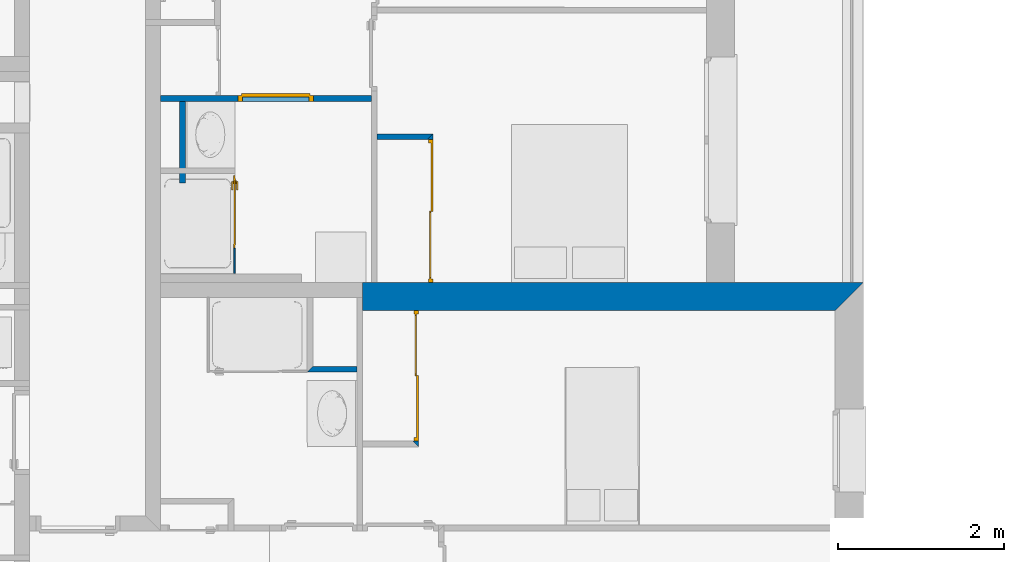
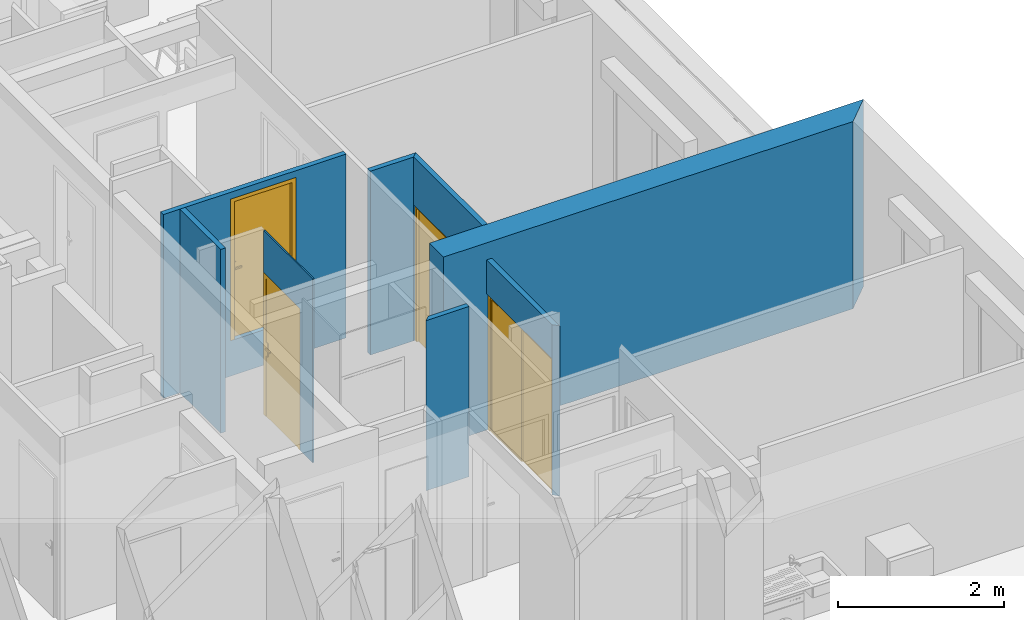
# One storey, part 13 of 164: 8 walls, 4 doors, 4 openings.
"""IFC2X3 building model written with IfcOpenShell, lengths in millimetres."""

from ifc_helpers import new_model, entity, si_unit, converted_unit, derived_unit, money_unit, direction, frame, origin_with_axes, origin_2d_with_axis, place, context, subcontext, project, spatial, polyline, rectangle, outline, extrude, open_shell, faceted_brep, surface_model, source, transform, mapped, material, layer, layer_set, layer_usage, type_object, element, fill, save


model = new_model("IFC2X3")

# Units and contexts
model_context = context("Model", 3, precision=0.01, world=origin_with_axes(), true_north=direction((0.0, 1.0)))
body_context = subcontext(model_context, "Body", "Model", "MODEL_VIEW")
ifc_project = project(units=[si_unit("LENGTHUNIT", "METRE", prefix="MILLI"), si_unit("AREAUNIT", "SQUARE_METRE"), si_unit("VOLUMEUNIT", "CUBIC_METRE"), converted_unit("PLANEANGLEUNIT", "DEGREE", entity("IfcPlaneAngleMeasure", 0.0174532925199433), si_unit("PLANEANGLEUNIT", "RADIAN"), dimensions=[0, 0, 0, 0, 0, 0, 0]), money_unit("USD"), converted_unit("TIMEUNIT", "Year", entity("IfcTimeMeasure", 31557600.0), si_unit("TIMEUNIT", "SECOND"), dimensions=[0, 0, 1, 0, 0, 0, 0]), si_unit("MASSUNIT", "GRAM", prefix="KILO"), si_unit("THERMODYNAMICTEMPERATUREUNIT", "DEGREE_CELSIUS"), si_unit("LUMINOUSINTENSITYUNIT", "LUMEN"), si_unit("ENERGYUNIT", "JOULE", prefix="MEGA"), derived_unit("THERMALCONDUCTANCEUNIT", [(si_unit("POWERUNIT", "WATT"), 1), (si_unit("LENGTHUNIT", "METRE"), -1), (si_unit("THERMODYNAMICTEMPERATUREUNIT", "KELVIN"), -1)]), derived_unit("SPECIFICHEATCAPACITYUNIT", [(si_unit("ENERGYUNIT", "JOULE"), 1), (si_unit("MASSUNIT", "GRAM", prefix="KILO"), -1), (si_unit("THERMODYNAMICTEMPERATUREUNIT", "KELVIN"), -1)]), derived_unit("MASSDENSITYUNIT", [(si_unit("MASSUNIT", "GRAM", prefix="KILO"), 1), (si_unit("VOLUMEUNIT", "CUBIC_METRE"), -1)])], contexts=[model_context])

# Site, building, storey
site_placement = place(None, origin_with_axes())
site = spatial("IfcSite", under=ifc_project, at=site_placement, Name="Site", CompositionType="ELEMENT")
building_placement = place(site_placement, origin_with_axes())
building = spatial("IfcBuilding", under=site, at=building_placement, Name="Bâtiment", CompositionType="ELEMENT")
storey_placement = place(building_placement, frame((0.0, 0.0, 5750.0), z_axis=(0.0, 0.0, 1.0), x_axis=(1.0, 0.0, 0.0)))
storey = spatial("IfcBuildingStorey", under=building, at=storey_placement, Name="Etage1", CompositionType="ELEMENT", Elevation=5750.0)

# Wall, opening, door
ifc_material_1 = material(Name="Hachure solide 268963992")
ifc_layer_1 = layer(ifc_material_1, 70.0, ventilated="UNKNOWN")
ifc_layer_set_1 = layer_set([ifc_layer_1], Name="Cloison 70 0826278243")
ifc_layer_usage_1 = layer_usage(ifc_layer_set_1, "AXIS2", "NEGATIVE", 70.0)
wall_type_1 = type_object("IfcWallType", Name="Cloison 70 0826278243 70", PredefinedType="NOTDEFINED")
wall_1_placement = place(storey_placement, frame((2229170.650386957, -646738.4413044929, 0.0), z_axis=(0.0, 0.0, 1.0), x_axis=(0.0, 1.0, 0.0)))
wall_1 = element("IfcWallStandardCase", 1, at=wall_1_placement, inside=storey, type_object=wall_type_1, material=ifc_layer_usage_1, Name="Mur-149", context=body_context, shape_type="SweptSolid", body=[
    extrude(outline(polyline([(8.877094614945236e-07, 0.0), (1790.16227224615, 0.0), (1720.162272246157, 70.00000000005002), (8.877094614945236e-07, 70.00000000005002), (8.877094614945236e-07, 0.0)])), origin_with_axes(), (0.0, 0.0, 1.0), 2700.0),
])
opening_1_placement = place(wall_1_placement, frame((860.0811365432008, 0.0, 0.0), z_axis=(0.0, 0.0, 1.0), x_axis=(1.0, 0.0, 0.0)))
opening_1 = element("IfcOpeningElement", 2, at=opening_1_placement, cuts=wall_1, Name="Por-323", context=body_context, shape_type="SweptSolid", body=[
    extrude(rectangle(XDim=1720.162271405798, YDim=2000.0, at=origin_2d_with_axis()), frame((0.0, 0.0, 1000.0), z_axis=(0.0, 1.0, 0.0), x_axis=(1.0, 0.0, 0.0)), (0.0, 0.0, -1.0), 70.0),
    extrude(rectangle(XDim=1720.162271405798, YDim=2000.0, at=origin_2d_with_axis()), frame((0.0, 0.0, 1000.0), z_axis=(0.0, -1.0, 0.0), x_axis=(1.0, 0.0, 0.0)), (0.0, 0.0, -1.0), 70.0),
])
door_style_1 = type_object("IfcDoorStyle", ConstructionType="NOTDEFINED", OperationType="NOTDEFINED", ParameterTakesPrecedence=False, Sizeable=False)
shared_shape_1 = source(origin_with_axes(), body_context, "Body", "SurfaceModel", [
    faceted_brep([(-860.0811357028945, 0.0, 0.0), (-860.0811357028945, 0.0, 2000.0), (860.0811357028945, 0.0, 2000.0), (860.0811357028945, 0.0, 0.0), (820.0811357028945, 0.0, 0.0), (820.0811357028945, 0.0, 1960.0), (-820.0811357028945, 0.0, 1960.0), (-820.0811357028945, 0.0, 0.0), (-860.0811357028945, -50.0, 0.0), (-860.0811357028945, -50.0, 2000.0), (860.0811357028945, -50.0, 2000.0), (860.0811357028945, -50.0, 0.0), (820.0811357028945, -50.0, 0.0), (820.0811357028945, -10.0, 0.0), (820.0811357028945, -10.0, 1960.0), (-820.0811357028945, -10.0, 1960.0), (-820.0811357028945, -10.0, 0.0), (-820.0811357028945, -50.0, 0.0), (-820.0811357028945, -50.0, 1960.0), (820.0811357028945, -50.0, 1960.0)], [[[0, 1, 2, 3, 4, 5, 6, 7]], [[8, 9, 1, 0]], [[9, 10, 2, 1]], [[10, 11, 3, 2]], [[3, 11, 12, 13, 4]], [[5, 4, 13, 14]], [[6, 5, 14, 15]], [[7, 6, 15, 16]], [[0, 7, 16, 17, 8]], [[17, 18, 19, 12, 11, 10, 9, 8]], [[14, 13, 12, 19]], [[15, 14, 19, 18]], [[16, 15, 18, 17]]]),
    faceted_brep([(820.0811357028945, -20.0, 0.0), (820.0811357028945, -40.0, 0.0), (0.0, -40.0, 0.0), (0.0, -20.0, 0.0), (820.0811357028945, -20.0, 1960.0), (820.0811357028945, -40.0, 1960.0), (0.0, -40.0, 1960.0), (800.0811357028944, -40.0, 20.0), (20.00000000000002, -40.0, 20.0), (20.00000000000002, -40.0, 1940.0), (800.0811357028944, -40.0, 1940.0), (0.0, -20.0, 1960.0), (800.0811357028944, -20.0, 20.0), (800.0811357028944, -20.0, 1940.0), (20.00000000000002, -20.0, 1940.0), (20.00000000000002, -20.0, 20.0)], [[[0, 1, 2, 3]], [[4, 5, 1, 0]], [[1, 5, 6, 2], [7, 8, 9, 10]], [[3, 2, 6, 11]], [[0, 3, 11, 4], [12, 13, 14, 15]], [[11, 6, 5, 4]], [[15, 8, 7, 12]], [[14, 9, 8, 15]], [[13, 10, 9, 14]], [[12, 7, 10, 13]]]),
    surface_model("IfcShellBasedSurfaceModel", [(800.0811357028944, -30.0, 20.0), (800.0811357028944, -30.0, 1940.0), (20.00000000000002, -30.0, 1940.0), (20.00000000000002, -30.0, 20.0)], [open_shell([[[0, 1, 2, 3]]])]),
    faceted_brep([(5.000000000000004, 0.0, 0.0), (5.000000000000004, -20.0, 0.0), (-820.0811357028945, -20.0, 0.0), (-820.0811357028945, 0.0, 0.0), (5.000000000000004, 0.0, 1960.0), (5.000000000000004, -20.0, 1960.0), (-820.0811357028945, -20.0, 1960.0), (-820.0811357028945, 0.0, 1960.0)], [[[0, 1, 2, 3]], [[4, 5, 1, 0]], [[1, 5, 6, 2]], [[3, 2, 6, 7]], [[0, 3, 7, 4]], [[7, 6, 5, 4]]]),
])
door_1_placement = place(opening_1_placement, frame((860.0811357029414, 0.0, 0.0), z_axis=(0.0, 0.0, 1.0), x_axis=(-1.0, 0.0, 0.0)))
door_1 = element("IfcDoor", 3, at=door_1_placement, inside=storey, type_object=door_style_1, Name="Por-323", OverallHeight=2000.0, OverallWidth=1720.16, context=body_context, shape_type="MappedRepresentation", body=[
    mapped(shared_shape_1, transform((860.0811357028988, 0.0, 0.0))),
])
fill(opening_1, door_1)

# Walls
ifc_layer_usage_2 = layer_usage(ifc_layer_set_1, "AXIS2", "NEGATIVE", 70.0)
wall_2_placement = place(storey_placement, frame((2227655.056988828, -647819.3140481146, 0.0), z_axis=(0.0, 0.0, 1.0), x_axis=(1.0, 0.0, 0.0)))
element("IfcWallStandardCase", 4, at=wall_2_placement, inside=storey, type_object=wall_type_1, material=ifc_layer_usage_2, Name="Mur-149", context=body_context, shape_type="SweptSolid", body=[
    extrude(outline(polyline([(0.0, 0.0), (601.8235545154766, 0.0), (601.8235545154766, 69.99999999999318), (70.00000000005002, 69.99999999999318), (0.0, 0.0)])), origin_with_axes(), (0.0, 0.0, 1.0), 2500.0),
])
ifc_layer_usage_3 = layer_usage(ifc_layer_set_1, "AXIS2", "POSITIVE", -70.0)
wall_3_placement = place(storey_placement, frame((2226190.814608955, -644489.3213492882, 0.0), z_axis=(0.0, 0.0, 1.0), x_axis=(0.0, -1.0, 0.0)))
element("IfcWallStandardCase", 5, at=wall_3_placement, inside=storey, type_object=wall_type_1, material=ifc_layer_usage_3, Name="Mur-149", context=body_context, shape_type="SweptSolid", body=[
    extrude(outline(polyline([(69.99999999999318, -70.00000000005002), (1049.625339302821, -70.00000000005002), (1049.625339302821, 0.0), (69.99999999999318, 0.0), (69.99999999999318, -70.00000000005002)])), origin_with_axes(), (0.0, 0.0, 1.0), 2700.0),
])

# Wall, opening, door
ifc_layer_usage_4 = layer_usage(ifc_layer_set_1, "AXIS2", "POSITIVE", -70.0)
wall_4_placement = place(storey_placement, frame((2225712.318356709, -644489.3213492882, 0.0), z_axis=(0.0, 0.0, 1.0), x_axis=(1.0, 0.0, 0.0)))
wall_4 = element("IfcWallStandardCase", 6, at=wall_4_placement, inside=storey, type_object=wall_type_1, material=ifc_layer_usage_4, Name="Mur-149", context=body_context, shape_type="SweptSolid", body=[
    extrude(outline(polyline([(179.99999999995, -69.99999999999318), (2718.332030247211, -69.99999999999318), (2718.332030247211, 0.0), (179.99999999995, 0.0), (179.99999999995, -69.99999999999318)])), origin_with_axes(), (0.0, 0.0, 1.0), 2700.0),
])
opening_2_placement = place(wall_4_placement, frame((1567.15203090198, 0.0, 520.0000000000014), z_axis=(0.0, 0.0, 1.0), x_axis=(1.0, 0.0, 0.0)))
opening_2 = element("IfcOpeningElement", 7, at=opening_2_placement, cuts=wall_4, Name="Por-278", context=body_context, shape_type="SweptSolid", body=[
    extrude(rectangle(XDim=909.9999999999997, YDim=2079.999999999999, at=origin_2d_with_axis()), frame((0.0, -69.99999999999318, 1039.999999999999), z_axis=(0.0, 1.0, 0.0), x_axis=(1.0, 0.0, 0.0)), (0.0, 0.0, 1.0), 140.0),
])
door_style_2 = type_object("IfcDoorStyle", Name="Porte_1v", ConstructionType="NOTDEFINED", OperationType="NOTDEFINED", ParameterTakesPrecedence=False, Sizeable=False)
shared_shape_2 = source(origin_with_axes(), body_context, "Body", "Brep", [
    faceted_brep([(454.9999999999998, 0.0, 0.0), (414.9999999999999, 0.0, 0.0), (414.9999999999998, 0.0, 2040.0), (-414.9999999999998, 0.0, 2040.0), (-414.9999999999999, 0.0, 0.0), (-454.9999999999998, 0.0, 0.0), (-454.9999999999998, 0.0, 2080.0), (454.9999999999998, 0.0, 2080.0), (454.9999999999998, -69.99999999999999, 0.0), (399.9999999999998, -69.99999999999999, 0.0), (399.9999999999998, -15.0, 0.0), (414.9999999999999, -15.0, 0.0), (414.9999999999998, -15.0, 2040.0), (-414.9999999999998, -15.0, 2040.0), (-414.9999999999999, -15.0, 0.0), (-399.9999999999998, -15.0, 0.0), (-399.9999999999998, -69.99999999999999, 0.0), (-454.9999999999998, -69.99999999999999, 0.0), (-454.9999999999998, -69.99999999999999, 2080.0), (454.9999999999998, -69.99999999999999, 2080.0), (-399.9999999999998, -69.99999999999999, 2025.0), (399.9999999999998, -69.99999999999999, 2025.0), (399.9999999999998, -15.0, 2025.0), (-399.9999999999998, -15.0, 2025.0)], [[[0, 1, 2, 3, 4, 5, 6, 7]], [[0, 8, 9, 10, 11, 1]], [[1, 11, 12, 2]], [[2, 12, 13, 3]], [[3, 13, 14, 4]], [[5, 4, 14, 15, 16, 17]], [[18, 6, 5, 17]], [[19, 7, 6, 18]], [[8, 0, 7, 19]], [[9, 8, 19, 18, 17, 16, 20, 21]], [[10, 9, 21, 22]], [[11, 10, 22, 23, 15, 14, 13, 12]], [[23, 20, 16, 15]], [[22, 21, 20, 23]]]),
    faceted_brep([(-349.9999999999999, -15.0, 900.0), (-389.9999999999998, -15.0, 900.0), (-389.9999999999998, -15.0, 1100.0), (-349.9999999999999, -15.0, 1100.0), (-349.9999999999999, -24.99999999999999, 900.0), (-389.9999999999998, -24.99999999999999, 900.0), (-389.9999999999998, -24.99999999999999, 1100.0), (-349.9999999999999, -24.99999999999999, 1100.0)], [[[0, 1, 2, 3]], [[1, 0, 4, 5]], [[2, 1, 5, 6]], [[3, 2, 6, 7]], [[0, 3, 7, 4]], [[5, 4, 7, 6]]]),
    faceted_brep([(-279.9999999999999, -24.99999999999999, 1000.0), (-379.9999999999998, -24.99999999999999, 1000.0), (-379.9999999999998, -24.99999999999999, 1020.0), (-279.9999999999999, -24.99999999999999, 1020.0), (-279.9999999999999, -44.99999999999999, 1000.0), (-379.9999999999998, -44.99999999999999, 1000.0), (-379.9999999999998, -44.99999999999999, 1020.0), (-279.9999999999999, -44.99999999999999, 1020.0)], [[[0, 1, 2, 3]], [[1, 0, 4, 5]], [[2, 1, 5, 6]], [[3, 2, 6, 7]], [[0, 3, 7, 4]], [[5, 4, 7, 6]]]),
    faceted_brep([(-349.9999999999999, 34.99999999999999, 900.0), (-389.9999999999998, 34.99999999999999, 900.0), (-389.9999999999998, 34.99999999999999, 1100.0), (-349.9999999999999, 34.99999999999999, 1100.0), (-349.9999999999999, 24.99999999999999, 900.0), (-389.9999999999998, 24.99999999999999, 900.0), (-389.9999999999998, 24.99999999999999, 1100.0), (-349.9999999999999, 24.99999999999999, 1100.0)], [[[0, 1, 2, 3]], [[1, 0, 4, 5]], [[2, 1, 5, 6]], [[3, 2, 6, 7]], [[0, 3, 7, 4]], [[5, 4, 7, 6]]]),
    faceted_brep([(-279.9999999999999, 54.99999999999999, 1000.0), (-379.9999999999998, 54.99999999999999, 1000.0), (-379.9999999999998, 54.99999999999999, 1020.0), (-279.9999999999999, 54.99999999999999, 1020.0), (-279.9999999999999, 34.99999999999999, 1000.0), (-379.9999999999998, 34.99999999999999, 1000.0), (-379.9999999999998, 34.99999999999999, 1020.0), (-279.9999999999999, 34.99999999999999, 1020.0)], [[[0, 1, 2, 3]], [[1, 0, 4, 5]], [[2, 1, 5, 6]], [[3, 2, 6, 7]], [[0, 3, 7, 4]], [[5, 4, 7, 6]]]),
    faceted_brep([(-414.9999999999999, 24.99999999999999, 0.0), (414.9999999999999, 24.99999999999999, 0.0), (414.9999999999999, -15.0, 0.0), (-414.9999999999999, -15.0, 0.0), (-414.9999999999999, 24.99999999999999, 2040.0), (414.9999999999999, 24.99999999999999, 2040.0), (414.9999999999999, -15.0, 2040.0), (-414.9999999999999, -15.0, 2040.0)], [[[0, 1, 2, 3]], [[0, 4, 5, 1]], [[1, 5, 6, 2]], [[3, 2, 6, 7]], [[4, 0, 3, 7]], [[5, 4, 7, 6]]]),
])
door_2_placement = place(opening_2_placement, frame((-414.9999999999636, 0.0, 0.0), z_axis=(0.0, 0.0, 1.0), x_axis=(1.0, 0.0, 0.0)))
door_2 = element("IfcDoor", 8, at=door_2_placement, inside=storey, type_object=door_style_2, Name="Por-278", OverallHeight=2040.0, OverallWidth=830.0, context=body_context, shape_type="MappedRepresentation", body=[
    mapped(shared_shape_2, transform((414.9999999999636, 0.0, 0.0))),
])
fill(opening_2, door_2)

ifc_layer_usage_5 = layer_usage(ifc_layer_set_1, "AXIS2", "POSITIVE", -70.0)
wall_5_placement = place(storey_placement, frame((2228996.880543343, -646738.4413036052, 0.0), z_axis=(0.0, 0.0, 1.0), x_axis=(0.0, -1.0, 0.0)))
wall_5 = element("IfcWallStandardCase", 9, at=wall_5_placement, inside=storey, type_object=wall_type_1, material=ifc_layer_usage_5, Name="Mur-149", context=body_context, shape_type="SweptSolid", body=[
    extrude(outline(polyline([(340.0000000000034, -70.00000000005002), (1908.59990796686, -70.00000000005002), (1978.599907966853, 0.0), (340.0000000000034, 0.0), (340.0000000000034, -70.00000000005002)])), origin_with_axes(), (0.0, 0.0, 1.0), 2500.0),
])
opening_3_placement = place(wall_5_placement, frame((1124.299953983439, 1.13686837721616e-10, 0.0), z_axis=(0.0, 0.0, 1.0), x_axis=(1.0, 0.0, 0.0)))
opening_3 = element("IfcOpeningElement", 10, at=opening_3_placement, cuts=wall_5, Name="Por-321", context=body_context, shape_type="SweptSolid", body=[
    extrude(rectangle(XDim=1568.599907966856, YDim=2000.0, at=origin_2d_with_axis()), frame((0.0, 0.0, 1000.0), z_axis=(0.0, -1.0, 0.0), x_axis=(1.0, 0.0, 0.0)), (0.0, 0.0, -1.0), 70.0),
    extrude(rectangle(XDim=1568.599907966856, YDim=2000.0, at=origin_2d_with_axis()), frame((0.0, 0.0, 1000.0), z_axis=(0.0, 1.0, 0.0), x_axis=(1.0, 0.0, 0.0)), (0.0, 0.0, -1.0), 70.0),
])
shared_shape_3 = source(origin_with_axes(), body_context, "Body", "SurfaceModel", [
    faceted_brep([(784.299953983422, 0.0, 0.0), (744.2999539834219, 0.0, 0.0), (744.2999539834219, 0.0, 1960.0), (-744.2999539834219, 0.0, 1960.0), (-744.2999539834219, 0.0, 0.0), (-784.299953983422, 0.0, 0.0), (-784.299953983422, 0.0, 2000.0), (784.299953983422, 0.0, 2000.0), (784.299953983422, -50.0, 0.0), (744.2999539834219, -50.0, 0.0), (744.2999539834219, -10.0, 0.0), (744.2999539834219, -10.0, 1960.0), (-744.2999539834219, -10.0, 1960.0), (-744.2999539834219, -10.0, 0.0), (-744.2999539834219, -50.0, 0.0), (-784.299953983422, -50.0, 0.0), (-784.299953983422, -50.0, 2000.0), (784.299953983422, -50.0, 2000.0), (-744.2999539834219, -50.0, 1960.0), (744.2999539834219, -50.0, 1960.0)], [[[0, 1, 2, 3, 4, 5, 6, 7]], [[0, 8, 9, 10, 1]], [[1, 10, 11, 2]], [[2, 11, 12, 3]], [[3, 12, 13, 4]], [[5, 4, 13, 14, 15]], [[16, 6, 5, 15]], [[17, 7, 6, 16]], [[8, 0, 7, 17]], [[9, 8, 17, 16, 15, 14, 18, 19]], [[10, 9, 19, 11]], [[11, 19, 18, 12]], [[12, 18, 14, 13]]]),
    faceted_brep([(-744.2999539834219, -20.0, 0.0), (0.0, -20.0, 0.0), (0.0, -40.0, 0.0), (-744.2999539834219, -40.0, 0.0), (-744.2999539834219, -20.0, 1960.0), (0.0, -20.0, 1960.0), (-724.2999539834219, -20.0, 20.0), (-20.00000000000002, -20.0, 20.0), (-20.00000000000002, -20.0, 1940.0), (-724.2999539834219, -20.0, 1940.0), (0.0, -40.0, 1960.0), (-744.2999539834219, -40.0, 1960.0), (-724.2999539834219, -40.0, 20.0), (-724.2999539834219, -40.0, 1940.0), (-20.00000000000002, -40.0, 1940.0), (-20.00000000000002, -40.0, 20.0)], [[[0, 1, 2, 3]], [[0, 4, 5, 1], [6, 7, 8, 9]], [[1, 5, 10, 2]], [[3, 2, 10, 11], [12, 13, 14, 15]], [[4, 0, 3, 11]], [[5, 4, 11, 10]], [[7, 6, 12, 15]], [[8, 7, 15, 14]], [[9, 8, 14, 13]], [[6, 9, 13, 12]]]),
    surface_model("IfcShellBasedSurfaceModel", [(-724.2999539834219, -30.0, 20.0), (-20.00000000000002, -30.0, 20.0), (-20.00000000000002, -30.0, 1940.0), (-724.2999539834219, -30.0, 1940.0)], [open_shell([[[0, 1, 2, 3]]])]),
    faceted_brep([(-5.000000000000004, 0.0, 0.0), (744.2999539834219, 0.0, 0.0), (744.2999539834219, -20.0, 0.0), (-5.000000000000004, -20.0, 0.0), (-5.000000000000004, 0.0, 1960.0), (744.2999539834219, 0.0, 1960.0), (744.2999539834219, -20.0, 1960.0), (-5.000000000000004, -20.0, 1960.0)], [[[0, 1, 2, 3]], [[0, 4, 5, 1]], [[1, 5, 6, 2]], [[3, 2, 6, 7]], [[4, 0, 3, 7]], [[5, 4, 7, 6]]]),
])
door_3_placement = place(opening_3_placement, frame((-784.2999539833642, 1.13686837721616e-10, 0.0), z_axis=(0.0, 0.0, 1.0), x_axis=(1.0, 0.0, 0.0)))
door_3 = element("IfcDoor", 11, at=door_3_placement, inside=storey, type_object=door_style_1, Name="Por-321", OverallHeight=2000.0, OverallWidth=1568.6, context=body_context, shape_type="MappedRepresentation", body=[
    mapped(shared_shape_3, transform((784.299953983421, 0.0, 0.0))),
])
fill(opening_3, door_3)

# Walls
ifc_layer_usage_6 = layer_usage(ifc_layer_set_1, "AXIS2", "NEGATIVE", 70.0)
wall_6_placement = place(storey_placement, frame((2229170.650386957, -644948.2790322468, 0.0), z_axis=(0.0, 0.0, 1.0), x_axis=(-1.0, 0.0, 0.0)))
element("IfcWallStandardCase", 12, at=wall_6_placement, inside=storey, type_object=wall_type_1, material=ifc_layer_usage_6, Name="Mur-149", context=body_context, shape_type="SweptSolid", body=[
    extrude(outline(polyline([(0.0, 0.0), (669.9999999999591, 0.0), (669.9999999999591, 69.99999999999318), (70.00000000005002, 69.99999999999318), (0.0, 0.0)])), origin_with_axes(), (0.0, 0.0, 1.0), 2700.0),
])
ifc_material_2 = material(Name="Parpaing 312445824")
ifc_layer_2 = layer(ifc_material_2, 180.0, ventilated="UNKNOWN")
ifc_material_3 = material(Name="Isolant styromousse 301821074")
ifc_layer_3 = layer(ifc_material_3, 160.0, ventilated="UNKNOWN")
ifc_layer_set_2 = layer_set([ifc_layer_2, ifc_layer_3], Name="isol int 18+16 0018356637")
ifc_layer_usage_7 = layer_usage(ifc_layer_set_2, "AXIS2", "NEGATIVE", 0.0)
wall_type_2 = type_object("IfcWallType", Name="isol int 18+16 0018356637 340", PredefinedType="NOTDEFINED")
wall_7_placement = place(storey_placement, frame((2228326.880543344, -646738.4413036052, 0.0), z_axis=(0.0, 0.0, 1.0), x_axis=(1.0, 0.0, 0.0)))
element("IfcWallStandardCase", 13, at=wall_7_placement, inside=storey, type_object=wall_type_2, material=ifc_layer_usage_7, Name="Mur-144", context=body_context, shape_type="SweptSolid", body=[
    extrude(outline(polyline([(0.0, -340.0000000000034), (5689.790753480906, -340.0000000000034), (6029.790753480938, 0.0), (0.0, 0.0), (0.0, -340.0000000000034)])), origin_with_axes(), (0.0, 0.0, 1.0), 2750.0),
])

# Wall, opening, door
ifc_material_4 = material(Name="Empty Fill 292498448")
ifc_layer_4 = layer(ifc_material_4, 20.0, ventilated="UNKNOWN")
ifc_layer_set_3 = layer_set([ifc_layer_4], Name="mur 2cm")
ifc_layer_usage_8 = layer_usage(ifc_layer_set_3, "AXIS2", "POSITIVE", -20.0)
wall_type_3 = type_object("IfcWallType", Name="mur 2cm 20", PredefinedType="NOTDEFINED")
wall_8_placement = place(storey_placement, frame((2226790.814599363, -645448.0567157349, 0.0), z_axis=(0.0, 0.0, 1.0), x_axis=(-5.073241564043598e-07, -0.9999999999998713, 0.0)))
wall_8 = element("IfcWallStandardCase", 14, at=wall_8_placement, inside=storey, type_object=wall_type_3, material=ifc_layer_usage_8, Name="Mur-148", context=body_context, shape_type="SweptSolid", body=[
    extrude(outline(polyline([(0.0, -19.99999999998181), (1180.110441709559, -19.99999999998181), (1180.110441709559, 0.0), (0.0, 0.0), (0.0, -19.99999999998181)])), origin_with_axes(), (0.0, 0.0, 1.0), 2700.0),
])
opening_4_placement = place(wall_8_placement, frame((440.0000000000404, 1.13686837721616e-10, 0.0), z_axis=(0.0, 0.0, 1.0), x_axis=(1.0, 0.0, 0.0)))
opening_4 = element("IfcOpeningElement", 15, at=opening_4_placement, cuts=wall_8, Name="Por-288", context=body_context, shape_type="SweptSolid", body=[
    extrude(rectangle(XDim=880.0000119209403, YDim=2080.0, at=origin_2d_with_axis()), frame((5.960473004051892e-06, -19.99999999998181, 1040.0), z_axis=(0.0, 1.0, 0.0), x_axis=(1.0, 0.0, 0.0)), (0.0, 0.0, 1.0), 40.0),
])
shared_shape_4 = source(origin_with_axes(), body_context, "Body", "Brep", [
    faceted_brep([(440.0, 0.0, 0.0), (400.0, 0.0, 0.0), (400.0, 0.0, 2040.0), (-400.0, 0.0, 2040.0), (-400.0, 0.0, 0.0), (-440.0, 0.0, 0.0), (-440.0, 0.0, 2080.0), (440.0, 0.0, 2080.0), (440.0, -20.0, 0.0), (385.0, -20.0, 0.0), (385.0, -15.0, 0.0), (400.0, -15.0, 0.0), (400.0, -15.0, 2040.0), (-400.0, -15.0, 2040.0), (-400.0, -15.0, 0.0), (-385.0, -15.0, 0.0), (-385.0, -20.0, 0.0), (-440.0, -20.0, 0.0), (-440.0, -20.0, 2080.0), (440.0, -20.0, 2080.0), (-385.0, -20.0, 2025.0), (385.0, -20.0, 2025.0), (385.0, -15.0, 2025.0), (-385.0, -15.0, 2025.0)], [[[0, 1, 2, 3, 4, 5, 6, 7]], [[0, 8, 9, 10, 11, 1]], [[1, 11, 12, 2]], [[2, 12, 13, 3]], [[3, 13, 14, 4]], [[5, 4, 14, 15, 16, 17]], [[18, 6, 5, 17]], [[19, 7, 6, 18]], [[8, 0, 7, 19]], [[9, 8, 19, 18, 17, 16, 20, 21]], [[10, 9, 21, 22]], [[11, 10, 22, 23, 15, 14, 13, 12]], [[23, 20, 16, 15]], [[22, 21, 20, 23]]]),
    faceted_brep([(-335.0, -15.0, 900.0), (-375.0, -15.0, 900.0), (-375.0, -15.0, 1100.0), (-335.0, -15.0, 1100.0), (-335.0, -25.0, 900.0), (-375.0, -25.0, 900.0), (-375.0, -25.0, 1100.0), (-335.0, -25.0, 1100.0)], [[[0, 1, 2, 3]], [[1, 0, 4, 5]], [[2, 1, 5, 6]], [[3, 2, 6, 7]], [[0, 3, 7, 4]], [[5, 4, 7, 6]]]),
    faceted_brep([(-265.0, -25.0, 1000.0), (-365.0, -25.0, 1000.0), (-365.0, -25.0, 1020.0), (-265.0, -25.0, 1020.0), (-265.0, -45.0, 1000.0), (-365.0, -45.0, 1000.0), (-365.0, -45.0, 1020.0), (-265.0, -45.0, 1020.0)], [[[0, 1, 2, 3]], [[1, 0, 4, 5]], [[2, 1, 5, 6]], [[3, 2, 6, 7]], [[0, 3, 7, 4]], [[5, 4, 7, 6]]]),
    faceted_brep([(-335.0, 15.0, 900.0), (-375.0, 15.0, 900.0), (-375.0, 15.0, 1100.0), (-335.0, 15.0, 1100.0), (-335.0, 5.000000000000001, 900.0), (-375.0, 5.000000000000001, 900.0), (-375.0, 5.000000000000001, 1100.0), (-335.0, 5.000000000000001, 1100.0)], [[[0, 1, 2, 3]], [[1, 0, 4, 5]], [[2, 1, 5, 6]], [[3, 2, 6, 7]], [[0, 3, 7, 4]], [[5, 4, 7, 6]]]),
    faceted_brep([(-265.0, 35.0, 1000.0), (-365.0, 35.0, 1000.0), (-365.0, 35.0, 1020.0), (-265.0, 35.0, 1020.0), (-265.0, 15.0, 1000.0), (-365.0, 15.0, 1000.0), (-365.0, 15.0, 1020.0), (-265.0, 15.0, 1020.0)], [[[0, 1, 2, 3]], [[1, 0, 4, 5]], [[2, 1, 5, 6]], [[3, 2, 6, 7]], [[0, 3, 7, 4]], [[5, 4, 7, 6]]]),
    faceted_brep([(-400.0, 5.000000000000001, 0.0), (400.0, 5.000000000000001, 0.0), (400.0, -15.0, 0.0), (-400.0, -15.0, 0.0), (-400.0, 5.000000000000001, 2040.0), (400.0, 5.000000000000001, 2040.0), (400.0, -15.0, 2040.0), (-400.0, -15.0, 2040.0)], [[[0, 1, 2, 3]], [[0, 4, 5, 1]], [[1, 5, 6, 2]], [[3, 2, 6, 7]], [[4, 0, 3, 7]], [[5, 4, 7, 6]]]),
])
door_4_placement = place(opening_4_placement, frame((-399.9999999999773, 2.273736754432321e-10, 0.0), z_axis=(0.0, 0.0, 1.0), x_axis=(1.0, 0.0, 0.0)))
door_4 = element("IfcDoor", 16, at=door_4_placement, inside=storey, type_object=door_style_2, Name="Por-288", OverallHeight=2040.0, OverallWidth=800.0, context=body_context, shape_type="MappedRepresentation", body=[
    mapped(shared_shape_4, transform((400.0000000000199, 0.0, 0.0))),
])
fill(opening_4, door_4)

save(model, "model.ifc")
